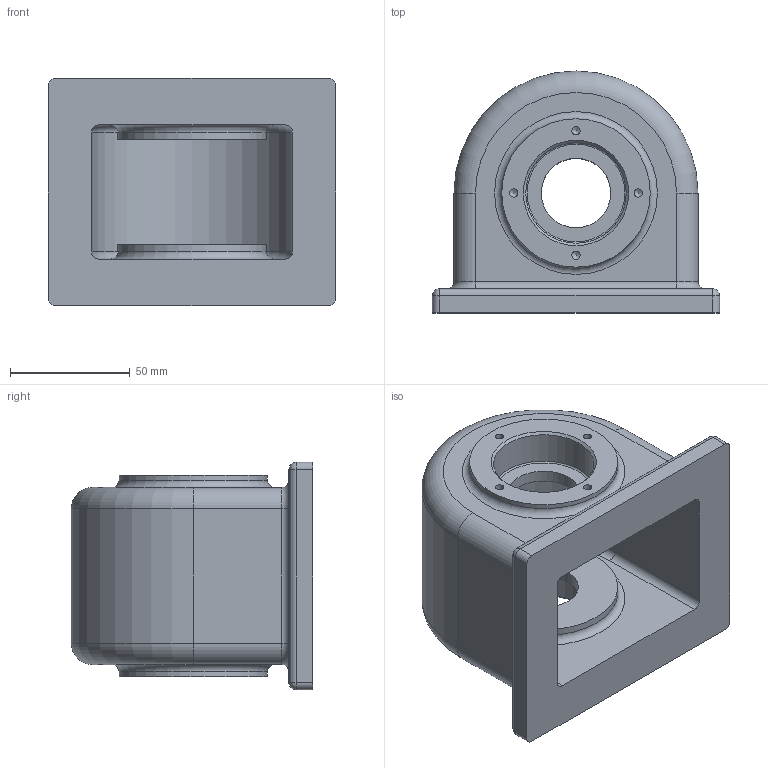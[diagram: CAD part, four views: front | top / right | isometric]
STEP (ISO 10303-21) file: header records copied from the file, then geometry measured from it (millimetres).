
FILE_DESCRIPTION((''),'2;1');
FILE_NAME('C:\Users\05-01\Desktop\380736E1032\380736E1032-기어박스.stp','2018-07-21T16:50:01',('05-01'),(''),'Autodesk Inventor 2013','Autodesk Inventor 2013','');
FILE_SCHEMA(('AUTOMOTIVE_DESIGN { 1 0 10303 214 1 1 1 1 }'));
Length unit declared in the file: millimetre
Products named in the file (1): 380736E1032
Bounding box: 120 x 101 x 95 mm (x, y, z)
Volume: 339158.8 mm3; surface area: 78784 mm2
Topology: 1 solids, 1 shells, 86 faces, 189 edges, 113 vertices
Faces by surface type: cylinder 38, plane 20, torus 14, cone 10, sphere 4
Full cylindrical faces by diameter (mm): 3.459 x8, 29 x2, 42 x2, 62 x4
Entity records: 2110 total; most frequent: DIRECTION 410, CARTESIAN_POINT 331, ORIENTED_EDGE 288, AXIS2_PLACEMENT_3D 179, EDGE_CURVE 144, EDGE_LOOP 130, VERTEX_POINT 100, CIRCLE 92
